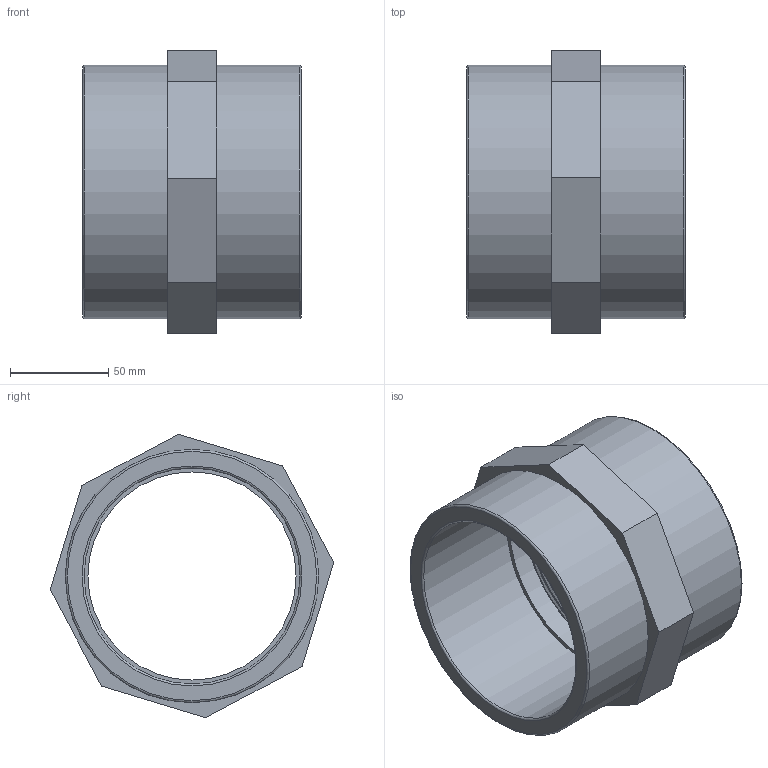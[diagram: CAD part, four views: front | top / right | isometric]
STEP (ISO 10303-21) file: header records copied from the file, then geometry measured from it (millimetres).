
FILE_DESCRIPTION(/* description */ (''),/* implementation_level */ '2;1');
FILE_NAME(/* name */ 'C:\Users\Gabriele\Desktop\disegni 3D\SO12\SO12110L.ipt.stp',/* time_stamp */ '2017-02-10T09:52:49+01:00',/* author */ ('Eugenio'),/* organization */ (''),/* preprocessor_version */ 'ST-DEVELOPER v16.5',/* originating_system */ 'Autodesk Inventor 2017',/* authorisation */ '');
FILE_SCHEMA (('AUTOMOTIVE_DESIGN { 1 0 10303 214 3 1 1 }'));
Length unit declared in the file: millimetre
Products named in the file (1): SO12110L
Bounding box: 111.3 x 144.34 x 144.34 mm (x, y, z)
Volume: 438672.6 mm3; surface area: 133250.8 mm2
Topology: 2 solids, 2 shells, 33 faces, 73 edges, 48 vertices
Faces by surface type: plane 16, cylinder 7, bspline 6, torus 4
Full cylindrical faces by diameter (mm): 106 x1, 110 x1, 113.03 x2, 129 x2
Entity records: 8401 total; most frequent: CARTESIAN_POINT 7726, ORIENTED_EDGE 122, DIRECTION 116, EDGE_CURVE 61, EDGE_LOOP 51, VERTEX_POINT 46, AXIS2_PLACEMENT_3D 46, FACE_OUTER_BOUND 33
